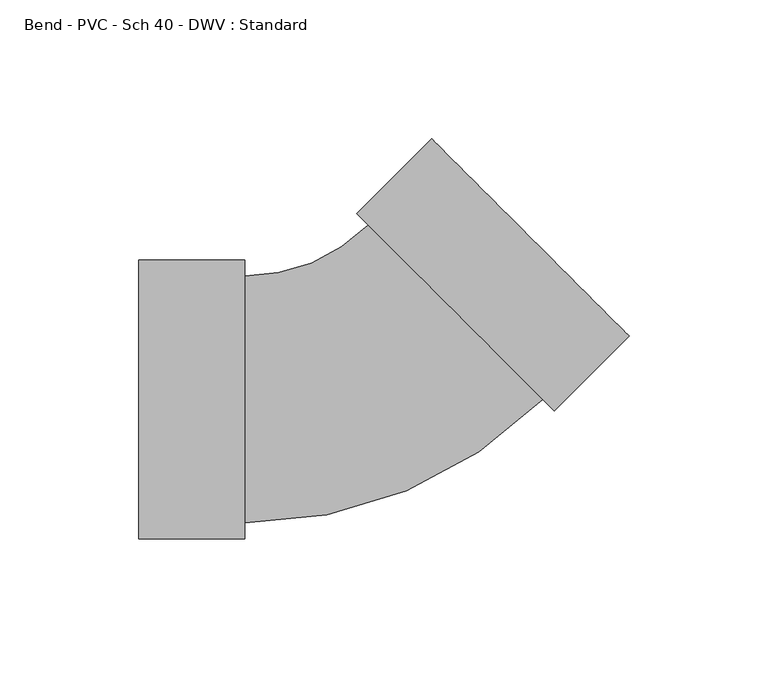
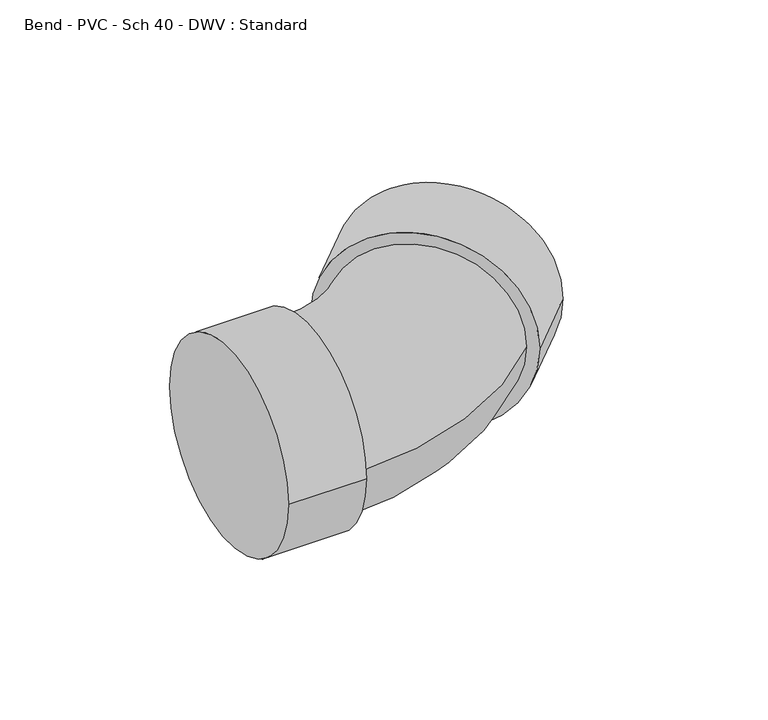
"""IFC4 building model written with IfcOpenShell, lengths in millimetres: pipe fitting geometry, Bend - PVC - Sch 40 - DWV : Standard."""

from ifc_helpers import new_model, si_unit, point, frame, origin, place, context, project, spatial, circle_curve, ellipse_curve, trimmed, source, transform, mapped, element, save
from ifc_brep_helpers import plane_surface, cylinder_surface, revolved_surface, advanced_brep


def bend_pvc_sch_40_dwv_standard_b2fbb50d(model_context):
    return source(origin(), model_context, "Body", "AdvancedBrep", [
        advanced_brep(
        [(-82.55, -50.2666, 0.0), (-82.55, 50.2666, 0.0), (-44.45, -50.2666, 0.0), (-44.45, 50.2666, 0.0), (-44.45, -44.45, 0.0), (-44.45, 44.45, 0.0), (5e-07, 62.8617928, 0.0), (62.8617928, -5e-07, 0.0), (66.9747501, -4.1129578, 0.0), (-4.1129568, 66.9747502, 0.0), (93.9155187, 22.8278103, 0.0), (22.8278118, 93.9155183, 0.0)],
        [
            (0, 1, circle_curve(frame((-82.55, 0.0, 0.0), z_axis=(-1.0, 0.0, 0.0), x_axis=(0.0, 1.0, 0.0)), 50.2666)),
            (1, 0, circle_curve(frame((-82.55, 0.0, 0.0), z_axis=(-1.0, 0.0, 0.0), x_axis=(0.0, 1.0, 0.0)), 50.2666)),
            (2, 3, circle_curve(frame((-44.45, 0.0, 0.0), z_axis=(1.0, 0.0, 0.0), x_axis=(0.0, 1.0, 0.0)), 50.2666)),
            (3, 2, circle_curve(frame((-44.45, 0.0, 0.0), z_axis=(1.0, 0.0, 0.0), x_axis=(0.0, 1.0, 0.0)), 50.2666)),
            (4, 5, circle_curve(frame((-44.45, 0.0, 0.0), z_axis=(-1.0, 0.0, 0.0), x_axis=(0.0, 1.0, 0.0)), 44.45)),
            (5, 4, circle_curve(frame((-44.45, 0.0, 0.0), z_axis=(-1.0, 0.0, 0.0), x_axis=(0.0, 1.0, 0.0)), 44.45)),
            (0, 2),
            (3, 1),
            (6, 5, circle_curve(frame((-44.45, 107.311794, 0.0), z_axis=(0.0, 0.0, -1.0), x_axis=(0.0, -1.0, 0.0)), 62.861794)),
            (4, 7, circle_curve(frame((-44.45, 107.311794, 0.0), z_axis=(0.0, 0.0, 1.0), x_axis=(0.0, -1.0, 0.0)), 151.761794)),
            (7, 6, circle_curve(frame((31.4308967, 31.4308962, 0.0), z_axis=(-0.7071067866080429, -0.7071067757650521, 0.0), x_axis=(-0.7071067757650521, 0.7071067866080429, 0.0)), 44.45)),
            (6, 7, circle_curve(frame((31.4308967, 31.4308962, 0.0), z_axis=(-0.7071067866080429, -0.7071067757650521, 0.0), x_axis=(-0.7071067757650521, 0.7071067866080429, 0.0)), 44.45)),
            (8, 9, circle_curve(frame((31.4308967, 31.4308962, 0.0), z_axis=(-0.7071067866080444, -0.7071067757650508, 0.0), x_axis=(-0.7071067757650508, 0.7071067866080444, 0.0)), 50.2666)),
            (9, 8, circle_curve(frame((31.4308967, 31.4308962, 0.0), z_axis=(-0.7071067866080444, -0.7071067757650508, 0.0), x_axis=(-0.7071067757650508, 0.7071067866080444, 0.0)), 50.2666)),
            (10, 11, circle_curve(frame((58.3716652, 58.3716643, 0.0), z_axis=(0.7071067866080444, 0.7071067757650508, 0.0), x_axis=(-0.7071067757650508, 0.7071067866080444, 0.0)), 50.2666)),
            (11, 10, circle_curve(frame((58.3716652, 58.3716643, 0.0), z_axis=(0.7071067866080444, 0.7071067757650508, 0.0), x_axis=(-0.7071067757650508, 0.7071067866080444, 0.0)), 50.2666)),
            (8, 10),
            (11, 9),
        ],
        [
            plane_surface(frame((-82.55, 0.0, 0.0), z_axis=(-1.0, 0.0, 0.0), x_axis=(0.0, 0.0, 1.0))),
            plane_surface(frame((-44.45, 0.0, 0.0), z_axis=(1.0, 0.0, 0.0), x_axis=(0.0, 0.0, 1.0))),
            cylinder_surface(frame((-82.55, 0.0, 0.0), z_axis=(-1.0, 0.0, 0.0), x_axis=(0.0, 1.0, 0.0)), 50.2666),
            revolved_surface(trimmed(ellipse_curve(frame((-44.45, 0.0, 0.0), z_axis=(-1.0, 0.0, 0.0), x_axis=(0.0, 1.0, 0.0)), 44.45, 44.45), [point((-44.45, -44.45, 0.0))], [point((-44.45, 44.45, 0.0))], True, "CARTESIAN"), (-44.45, 107.311794, 0.0), (0.0, 0.0, 1.0)),
            revolved_surface(trimmed(ellipse_curve(frame((-44.45, 0.0, 0.0), z_axis=(-1.0, 0.0, 0.0), x_axis=(0.0, 1.0, 0.0)), 44.45, 44.45), [point((-44.45, 44.45, 0.0))], [point((-44.45, -44.45, 0.0))], True, "CARTESIAN"), (-44.45, 107.311794, 0.0), (0.0, 0.0, 1.0)),
            plane_surface(frame((31.4308967, 31.4308962, 0.0), z_axis=(-0.7071067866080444, -0.7071067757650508, 0.0), x_axis=(0.0, 0.0, 1.0))),
            plane_surface(frame((58.3716652, 58.3716643, 0.0), z_axis=(0.7071067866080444, 0.7071067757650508, 0.0), x_axis=(0.0, 0.0, 1.0))),
            cylinder_surface(frame((31.4308967, 31.4308962, 0.0), z_axis=(-0.7071067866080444, -0.7071067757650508, 0.0), x_axis=(-0.7071067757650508, 0.7071067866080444, 0.0)), 50.2666),
        ],
        [
            (0, [[1, 2]]),
            (1, [[3, 4], [5, 6]]),
            (2, [[-1, 7, -4, 8]]),
            (2, [[-2, -8, -3, -7]]),
            (3, [[9, -5, 10, 11]]),
            (4, [[-9, 12, -10, -6]]),
            (5, [[13, 14], [-11, -12]]),
            (6, [[15, 16]]),
            (7, [[-13, 17, -16, 18]]),
            (7, [[-14, -18, -15, -17]]),
        ],
    ),
    ])


if __name__ == "__main__":
    model = new_model("IFC4")
    model_context = context("Model", 3, world=origin())
    ifc_project = project(units=[si_unit("LENGTHUNIT", "METRE", prefix="MILLI")], contexts=[model_context])
    site = spatial("IfcSite", under=ifc_project)
    building = spatial("IfcBuilding", under=site)
    placement = place(None, origin())
    bend_pvc_sch_40_dwv_standard_shape = bend_pvc_sch_40_dwv_standard_b2fbb50d(model_context)
    element("IfcPipeFitting", 1, ObjectType="Bend - PVC - Sch 40 - DWV : Standard", at=placement, inside=building, context=model_context, shape_type="MappedRepresentation", body=[
        mapped(bend_pvc_sch_40_dwv_standard_shape, transform((0.0, 0.0, 0.0), x_axis=(1.0, 0.0, 0.0), y_axis=(0.0, 1.0, 0.0), z_axis=(0.0, 0.0, 1.0))),
    ])
    save(model, "model.ifc")
